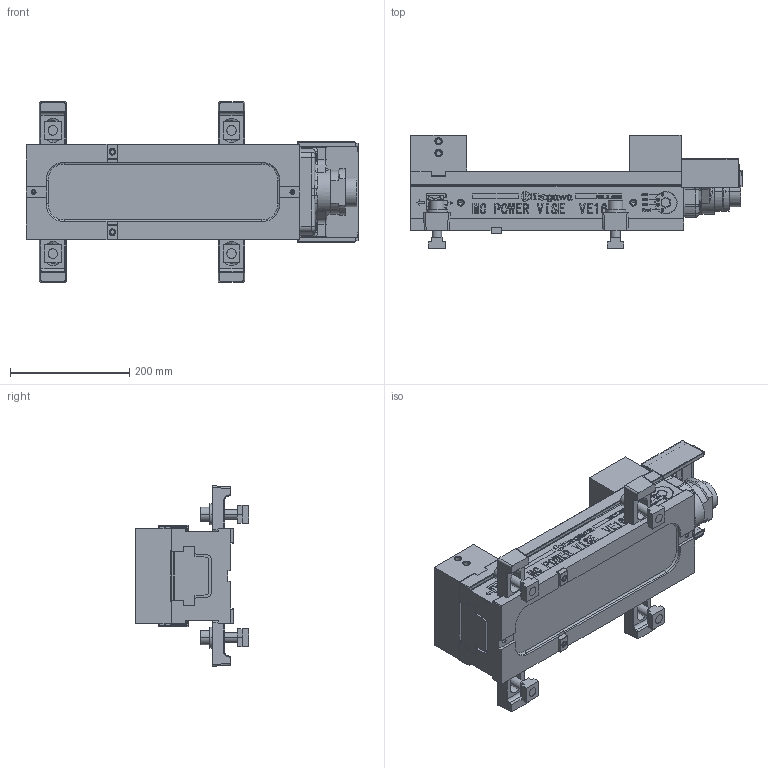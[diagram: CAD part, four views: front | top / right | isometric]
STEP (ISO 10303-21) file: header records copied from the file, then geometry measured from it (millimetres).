
FILE_DESCRIPTION (( 'STEP AP214' ), '1' );
FILE_NAME ('VE160N_O.STEP', '2023-08-04T06:30:54', ( '' ), ( '' ), 'SwSTEP 2.0', 'SolidWorks 2020', '' );
FILE_SCHEMA (( 'AUTOMOTIVE_DESIGN' ));
Length unit declared in the file: millimetre
Products named in the file (20): 僒僀僪僔乕儖L(61M2680370); クランプクミタテ(61M420565); VE160Nホンタイ; 僗儔僀僪僇僶乕Z(61M3523324)VE160; クランプ(61M3159626)VP160; 僕儑乕F(61M3963590)VE160N; エンドカバー(61M4625110)VE160N; 僕儑乕M(61俵3963600)VE160N; 儚僢僔儍丂16乮61M4266330乯; VE160N_O; 僗儔僀僪僇僶乕X(61M3523302)VE160; ガイドブロック(61M4197783); リボルバ部; カバーリング(61M4399252)VE160N; T僗儘僢僩僫僢僩俿俶俵侾俉侾俇; ボデー(61M2367014)VE160; 僗儔僀僪僇僶乕Y(61M3523315)VE160; 僒僀僪僔乕儖R(61M2680360); Bアナツキ M16×65; スプリングケース(61M2367022)VE160
Assembly tree (23 placements, depth 3):
  VE160N_O
    VE160Nホンタイ
      ボデー(61M2367014)VE160
      ガイドブロック(61M4197783)  x2
      僕儑乕F(61M3963590)VE160N
      スプリングケース(61M2367022)VE160
      カバーリング(61M4399252)VE160N
      リボルバ部
      エンドカバー(61M4625110)VE160N
      僕儑乕M(61俵3963600)VE160N
      僗儔僀僪僇僶乕X(61M3523302)VE160
      僗儔僀僪僇僶乕Y(61M3523315)VE160
      僗儔僀僪僇僶乕Z(61M3523324)VE160
      僒僀僪僔乕儖L(61M2680370)
      僒僀僪僔乕儖R(61M2680360)
    クランプクミタテ(61M420565)  x4
      クランプ(61M3159626)VP160
      儚僢僔儍丂16乮61M4266330乯
      Bアナツキ M16×65
      T僗儘僢僩僫僢僩俿俶俵侾俉侾俇
Bounding box: 557.4 x 190 x 303 mm (x, y, z)
Volume: 9516166.1 mm3; surface area: 868666.8 mm2
Topology: 30 solids, 30 shells, 1238 faces, 4602 edges, 3711 vertices
Faces by surface type: plane 861, cylinder 263, cone 79, torus 21, bspline 14
Entity records: 57516 total; most frequent: CARTESIAN_POINT 19430, ORIENTED_EDGE 8138, DIRECTION 5885, EDGE_CURVE 4069, VERTEX_POINT 3381, LINE 2615, VECTOR 2615, AXIS2_PLACEMENT_3D 1635
